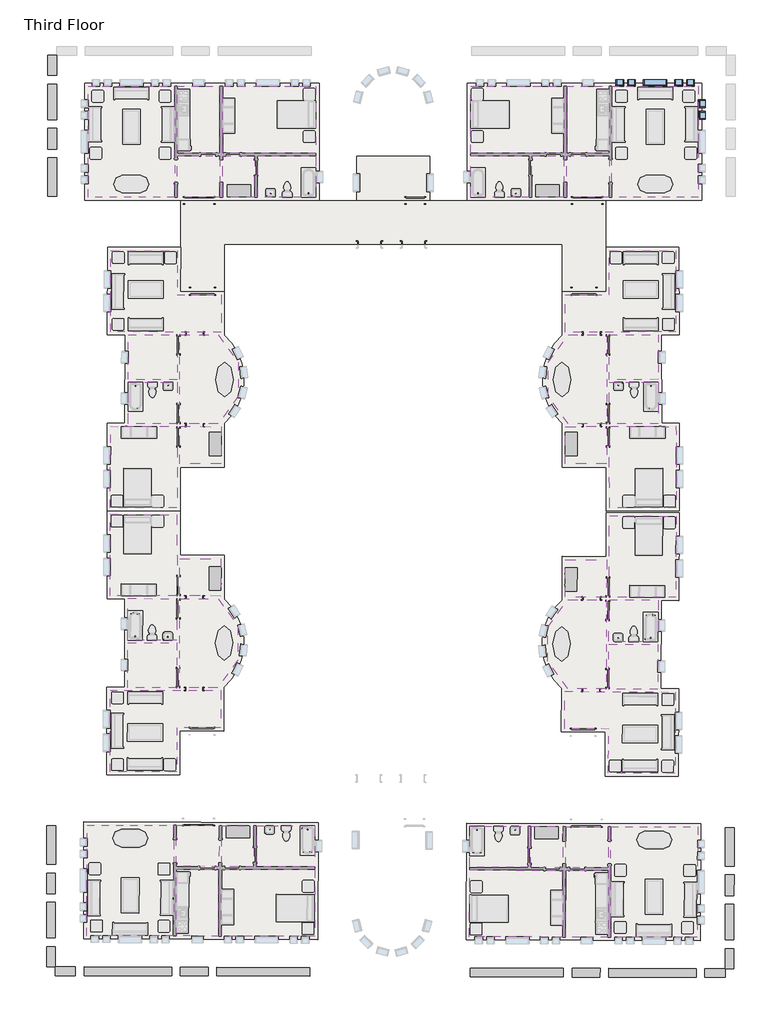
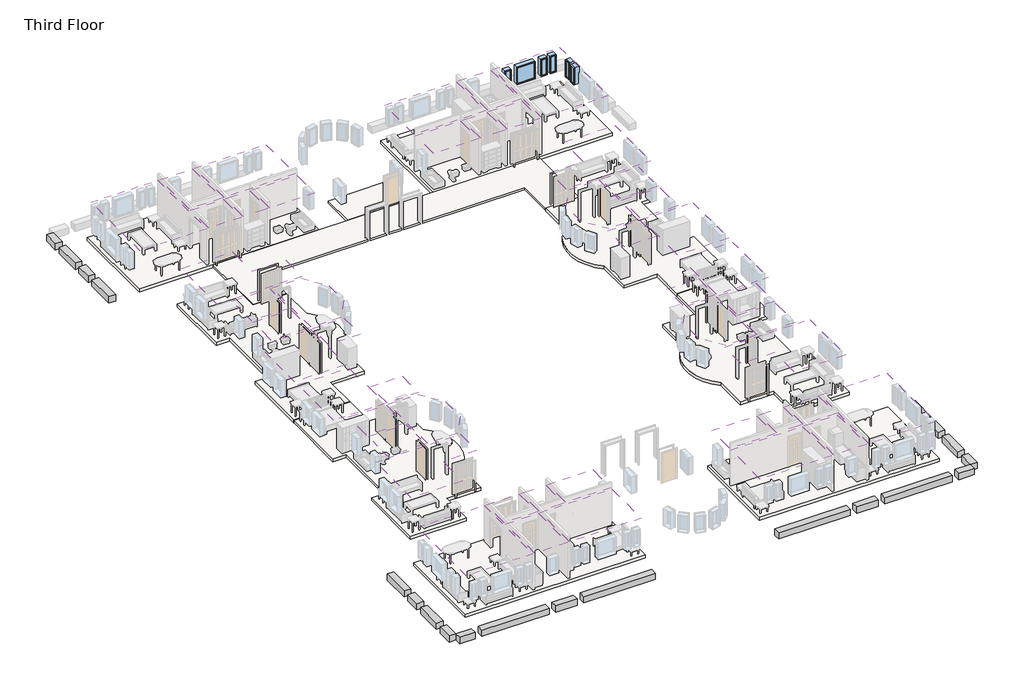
# One storey, part 3 of 5: 48 coverings, 10 slabs, 7 windows, 5 beams.
"""IFC4 building model written with IfcOpenShell, lengths in millimetres."""

import ifcopenshell
import ifcopenshell.guid

model = None  # the IFC model being written
_history = None  # IfcOwnerHistory: only IFC2X3 demands one
_inside = {}  # id of a spatial element -> (the spatial element, [elements in it])
_under = {}  # id of a project, library or spatial element -> (it, [spatial elements below it])
_declared = {}  # id of a project -> (the project, [libraries it declares])
_typed = {}  # id of a type object -> (the type object, [elements of that type])
_made_of = {}  # id of a material, layer set ... -> (it, [elements and type objects made of it])


def new_model(schema):
    """Start an empty IFC model of exactly this schema.

    Asked for "IFC4X3", IfcOpenShell would pick the latest addendum, in which some entities
    have other attributes; the version numbers below select the first issue.
    IFC2X3 requires an IfcOwnerHistory on every rooted entity: one is made here for all.
    """
    global model, _history
    if schema == "IFC4X3":
        model = ifcopenshell.file(schema_version=(4, 3, 0, 0))
    else:
        model = ifcopenshell.file(schema=schema)
    _inside.clear()
    _under.clear()
    _declared.clear()
    _typed.clear()
    _made_of.clear()
    _history = None
    if model.schema == "IFC2X3":
        org = make("IfcOrganization", Name="unknown")
        user = make(
            "IfcPersonAndOrganization",
            ThePerson=make("IfcPerson", FamilyName="unknown"),
            TheOrganization=org,
        )
        app = make(
            "IfcApplication",
            ApplicationDeveloper=org,
            Version="unknown",
            ApplicationFullName="unknown",
            ApplicationIdentifier="unknown",
        )
        _history = make(
            "IfcOwnerHistory",
            OwningUser=user,
            OwningApplication=app,
            ChangeAction="ADDED",
            CreationDate=0,
        )
    return model


def make(cls, **values):
    """One entity of the class cls with the attributes given. An attribute that is None is left unset."""
    return model.create_entity(
        cls, **{name: value for name, value in values.items() if value is not None}
    )


def rooted(cls, **values):
    """An entity with a GlobalId (a new one), such as an element, a storey or a relation."""
    return make(cls, GlobalId=ifcopenshell.guid.new(), OwnerHistory=_history, **values)


def si_unit(unit_type, name, prefix=None):
    """IfcSIUnit, for example si_unit("LENGTHUNIT", "METRE", prefix="MILLI")."""
    return make("IfcSIUnit", UnitType=unit_type, Prefix=prefix, Name=name)


def assignment(units):
    """IfcUnitAssignment: the units of a project."""
    return None if units is None else make("IfcUnitAssignment", Units=units)


def point(xyz):
    """IfcCartesianPoint."""
    return None if xyz is None else make("IfcCartesianPoint", Coordinates=xyz)


def direction(xyz):
    """IfcDirection."""
    return None if xyz is None else make("IfcDirection", DirectionRatios=xyz)


def frame(location, z_axis=None, x_axis=None):
    """IfcAxis2Placement3D, a coordinate frame: its origin and axes. An axis left out is left unset."""
    return make(
        "IfcAxis2Placement3D",
        Location=point(location),
        Axis=direction(z_axis),
        RefDirection=direction(x_axis),
    )


def frame_2d(location, x_axis=None):
    """IfcAxis2Placement2D, a coordinate frame in the plane: its origin and x axis."""
    return make(
        "IfcAxis2Placement2D", Location=point(location), RefDirection=direction(x_axis)
    )


def origin():
    """The frame at (0, 0, 0) with its axes left unset."""
    return frame((0.0, 0.0, 0.0))


def place(relative_to, where):
    """IfcLocalPlacement: puts the frame where relative to a parent placement (None: the world)."""
    return make(
        "IfcLocalPlacement", PlacementRelTo=relative_to, RelativePlacement=where
    )


def context(
    kind, dimensions, precision=None, world=None, true_north=None, identifier=None
):
    """IfcGeometricRepresentationContext, for example the 3D "Model" context."""
    return make(
        "IfcGeometricRepresentationContext",
        ContextIdentifier=identifier,
        ContextType=kind,
        CoordinateSpaceDimension=dimensions,
        Precision=precision,
        WorldCoordinateSystem=world,
        TrueNorth=true_north,
    )


def project(units=None, contexts=None):
    """IfcProject with its units and contexts."""
    return rooted(
        "IfcProject",
        Name="project",
        RepresentationContexts=contexts,
        UnitsInContext=assignment(units),
    )


def spatial(cls, under=None, at=None, **own):
    """A site, building, storey or space (cls), placed at a placement, below another one or the project."""
    s = rooted(cls, ObjectPlacement=at, **own)
    if under is not None:
        _under.setdefault(under.id(), (under, []))[1].append(s)
    return s


def polyline(points):
    """IfcPolyline through the points."""
    return make("IfcPolyline", Points=[point(p) for p in points])


def circle_curve(where, radius):
    """IfcCircle in the frame where."""
    return make("IfcCircle", Position=where, Radius=radius)


def trimmed(basis, trim1, trim2, sense, master):
    """IfcTrimmedCurve: the piece of a basis curve between two trims."""
    return make(
        "IfcTrimmedCurve",
        BasisCurve=basis,
        Trim1=trim1,
        Trim2=trim2,
        SenseAgreement=sense,
        MasterRepresentation=master,
    )


def segment(curve, same_sense, transition):
    """IfcCompositeCurveSegment."""
    return make(
        "IfcCompositeCurveSegment",
        Transition=transition,
        SameSense=same_sense,
        ParentCurve=curve,
    )


def composite_curve(segments, self_intersect=None):
    """IfcCompositeCurve: segments joined end to end."""
    return make("IfcCompositeCurve", Segments=segments, SelfIntersect=self_intersect)


def outline(outer, holes=None, kind="AREA"):
    """IfcArbitraryClosedProfileDef: a profile drawn as a closed curve; with holes, ...WithVoids."""
    if holes is None:
        return make("IfcArbitraryClosedProfileDef", ProfileType=kind, OuterCurve=outer)
    return make(
        "IfcArbitraryProfileDefWithVoids",
        ProfileType=kind,
        OuterCurve=outer,
        InnerCurves=holes,
    )


def extrude(swept, where, along, depth):
    """IfcExtrudedAreaSolid: the profile swept, set in the frame where, extruded along a direction by depth."""
    return make(
        "IfcExtrudedAreaSolid",
        SweptArea=swept,
        Position=where,
        ExtrudedDirection=direction(along),
        Depth=depth,
    )


def shape(context_of_items, identifier, shape_type, items):
    """IfcShapeRepresentation: the items that make up one representation, for example the "Body"."""
    return make(
        "IfcShapeRepresentation",
        ContextOfItems=context_of_items,
        RepresentationIdentifier=identifier,
        RepresentationType=shape_type,
        Items=items,
    )


def source(mapping_origin, context_of_items, identifier, shape_type, items):
    """IfcRepresentationMap: a shape defined once, which mapped items show again and again."""
    return make(
        "IfcRepresentationMap",
        MappingOrigin=mapping_origin,
        MappedRepresentation=shape(context_of_items, identifier, shape_type, items),
    )


def transform(
    local_origin,
    x_axis=None,
    y_axis=None,
    z_axis=None,
    scale=None,
    scale2=None,
    scale3=None,
    uniform=True,
):
    """IfcCartesianTransformationOperator3D, or its non-uniform kind. x_axis, y_axis, z_axis: its Axis1, 2, 3."""
    if uniform:
        return make(
            "IfcCartesianTransformationOperator3D",
            Axis1=direction(x_axis),
            Axis2=direction(y_axis),
            LocalOrigin=point(local_origin),
            Scale=scale,
            Axis3=direction(z_axis),
        )
    return make(
        "IfcCartesianTransformationOperator3DnonUniform",
        Axis1=direction(x_axis),
        Axis2=direction(y_axis),
        LocalOrigin=point(local_origin),
        Scale=scale,
        Axis3=direction(z_axis),
        Scale2=scale2,
        Scale3=scale3,
    )


def mapped(mapping_source, mapping_target):
    """IfcMappedItem: shows the shape of a source again, moved by a transform."""
    return make(
        "IfcMappedItem", MappingSource=mapping_source, MappingTarget=mapping_target
    )


def made_of(thing, what):
    """Note that an element or type object is made of a material, layer set ...; save() writes the relation."""
    if what is not None:
        _made_of.setdefault(what.id(), (what, []))[1].append(thing)
    return thing


def element(
    cls,
    number,
    at=None,
    inside=None,
    cuts=None,
    type_object=None,
    material=None,
    context=None,
    identifier="Body",
    shape_type=None,
    held_by="IfcProductDefinitionShape",
    body=None,
    shapes=None,
    **own,
):
    """One element of the class cls, such as IfcWall. Its Tag is "e" and its number.

    at: its placement. inside: the storey or other place that contains it. cuts: it is an
    opening in that element (IfcRelVoidsElement). A single representation is given by context,
    identifier, shape_type and body (its items); several are given by shapes. held_by: the class
    of the entity that holds the representations. save() writes the other relations.
    """
    e = rooted(cls, Tag="e%d" % number, ObjectPlacement=at, **own)
    if body is not None:
        shapes = [shape(context, identifier, shape_type, body)]
    if shapes is not None:
        e.Representation = make(held_by, Representations=shapes)
    if inside is not None:
        _inside.setdefault(inside.id(), (inside, []))[1].append(e)
    if cuts is not None:
        rooted(
            "IfcRelVoidsElement", RelatingBuildingElement=cuts, RelatedOpeningElement=e
        )
    if type_object is not None:
        _typed.setdefault(type_object.id(), (type_object, []))[1].append(e)
    return made_of(e, material)


def aggregate(whole, parts):
    """IfcRelAggregates: a whole, such as a stair, and the parts it consists of."""
    return rooted("IfcRelAggregates", RelatingObject=whole, RelatedObjects=parts)


def save(model, path):
    """Write the relations noted so far, then the file.

    IfcRelAggregates (storeys below a building ...), IfcRelContainedInSpatialStructure (elements
    in a storey), IfcRelDefinesByType, IfcRelAssociatesMaterial and IfcRelDeclares: one each for
    every whole, place, type object, material and project.
    """
    for whole, parts in _under.values():
        aggregate(whole, parts)
    for where, things in _inside.values():
        rooted(
            "IfcRelContainedInSpatialStructure",
            RelatedElements=things,
            RelatingStructure=where,
        )
    for kind, things in _typed.values():
        rooted("IfcRelDefinesByType", RelatedObjects=things, RelatingType=kind)
    for what, things in _made_of.values():
        rooted("IfcRelAssociatesMaterial", RelatedObjects=things, RelatingMaterial=what)
    for by, libraries in _declared.values():
        rooted("IfcRelDeclares", RelatingContext=by, RelatedDefinitions=libraries)
    model.write(path)


def m_fixed_0406_x_1220mm_57fee329(model_context):
    return source(origin(), model_context, "Body", "SweptSolid", [
        extrude(outline(polyline([(-140.0, 153.0), (140.0, 153.0), (140.0, 141.0), (-140.0, 141.0), (-140.0, 153.0)])), frame((0.0, 0.0, 978.0), z_axis=(0.0, 0.0, 1.0), x_axis=(1.0, 0.0, 0.0)), (0.0, 0.0, 1.0), 1094.0),
        extrude(outline(polyline([(2116.0, -184.0), (934.0, -184.0), (934.0, 184.0), (2116.0, 184.0), (2116.0, -184.0)]), holes=[polyline([(2072.0, -140.0), (2072.0, 140.0), (978.0, 140.0), (978.0, -140.0), (2072.0, -140.0)])]), frame((0.0, 125.0, 0.0), z_axis=(0.0, 1.0, 0.0), x_axis=(0.0, 0.0, 1.0)), (0.0, 0.0, 1.0), 44.0),
        extrude(outline(polyline([(2135.0, -203.0), (915.0, -203.0), (915.0, 203.0), (2135.0, 203.0), (2135.0, -203.0)]), holes=[polyline([(2116.0, -184.0), (2116.0, 184.0), (934.0, 184.0), (934.0, -184.0), (2116.0, -184.0)])]), frame((0.0, 125.0, 0.0), z_axis=(0.0, 1.0, 0.0), x_axis=(0.0, 0.0, 1.0)), (0.0, 0.0, 1.0), 63.0),
        extrude(outline(polyline([(2135.0, -203.0), (915.0, -203.0), (915.0, 203.0), (2135.0, 203.0), (2135.0, -203.0)]), holes=[polyline([(2103.0, -171.0), (2103.0, 171.0), (947.0, 171.0), (947.0, -171.0), (2103.0, -171.0)])]), frame((0.0, -162.0, 0.0), z_axis=(0.0, 1.0, 0.0), x_axis=(0.0, 0.0, 1.0)), (0.0, 0.0, 1.0), 287.0),
    ])


def m_fixed_0406_x_1220mm_85c28f40(model_context):
    return source(origin(), model_context, "Body", "SweptSolid", [
        extrude(outline(polyline([(-140.0, -153.0), (-140.0, -141.0), (140.0, -141.0), (140.0, -153.0), (-140.0, -153.0)])), frame((0.0, 0.0, 978.0), z_axis=(0.0, 0.0, 1.0), x_axis=(1.0, 0.0, 0.0)), (0.0, 0.0, 1.0), 1094.0),
        extrude(outline(polyline([(2116.0, -184.0), (934.0, -184.0), (934.0, 184.0), (2116.0, 184.0), (2116.0, -184.0)]), holes=[polyline([(2072.0, -140.0), (2072.0, 140.0), (978.0, 140.0), (978.0, -140.0), (2072.0, -140.0)])]), frame((0.0, -169.0, 0.0), z_axis=(0.0, 1.0, 0.0), x_axis=(0.0, 0.0, 1.0)), (0.0, 0.0, 1.0), 44.0),
        extrude(outline(polyline([(2135.0, -203.0), (915.0, -203.0), (915.0, 203.0), (2135.0, 203.0), (2135.0, -203.0)]), holes=[polyline([(2116.0, -184.0), (2116.0, 184.0), (934.0, 184.0), (934.0, -184.0), (2116.0, -184.0)])]), frame((0.0, -188.0, 0.0), z_axis=(0.0, 1.0, 0.0), x_axis=(0.0, 0.0, 1.0)), (0.0, 0.0, 1.0), 63.0),
        extrude(outline(polyline([(2135.0, -203.0), (915.0, -203.0), (915.0, 203.0), (2135.0, 203.0), (2135.0, -203.0)]), holes=[polyline([(2103.0, -171.0), (2103.0, 171.0), (947.0, 171.0), (947.0, -171.0), (2103.0, -171.0)])]), frame((0.0, -125.0, 0.0), z_axis=(0.0, 1.0, 0.0), x_axis=(0.0, 0.0, 1.0)), (0.0, 0.0, 1.0), 287.0),
    ])


def m_fixed_1220_x_1220mm_e08ff7af(model_context):
    return source(origin(), model_context, "Body", "SweptSolid", [
        extrude(outline(polyline([(-547.0, 153.0), (547.0, 153.0), (547.0, 141.0), (-547.0, 141.0), (-547.0, 153.0)])), frame((0.0, 0.0, 978.0), z_axis=(0.0, 0.0, 1.0), x_axis=(1.0, 0.0, 0.0)), (0.0, 0.0, 1.0), 1094.0),
        extrude(outline(polyline([(2116.0, -591.0), (934.0, -591.0), (934.0, 591.0), (2116.0, 591.0), (2116.0, -591.0)]), holes=[polyline([(2072.0, -547.0), (2072.0, 547.0), (978.0, 547.0), (978.0, -547.0), (2072.0, -547.0)])]), frame((0.0, 125.0, 0.0), z_axis=(0.0, 1.0, 0.0), x_axis=(0.0, 0.0, 1.0)), (0.0, 0.0, 1.0), 44.0),
        extrude(outline(polyline([(2135.0, -610.0), (915.0, -610.0), (915.0, 610.0), (2135.0, 610.0), (2135.0, -610.0)]), holes=[polyline([(2116.0, -591.0), (2116.0, 591.0), (934.0, 591.0), (934.0, -591.0), (2116.0, -591.0)])]), frame((0.0, 125.0, 0.0), z_axis=(0.0, 1.0, 0.0), x_axis=(0.0, 0.0, 1.0)), (0.0, 0.0, 1.0), 63.0),
        extrude(outline(polyline([(2135.0, -610.0), (915.0, -610.0), (915.0, 610.0), (2135.0, 610.0), (2135.0, -610.0)]), holes=[polyline([(2103.0, -578.0), (2103.0, 578.0), (947.0, 578.0), (947.0, -578.0), (2103.0, -578.0)])]), frame((0.0, -162.0, 0.0), z_axis=(0.0, 1.0, 0.0), x_axis=(0.0, 0.0, 1.0)), (0.0, 0.0, 1.0), 287.0),
    ])


model = new_model("IFC4")

# Units and contexts
model_context = context("Model", 3, world=origin())
ifc_project = project(units=[si_unit("LENGTHUNIT", "METRE", prefix="MILLI")], contexts=[model_context])

# Site, building, storey
site = spatial("IfcSite", under=ifc_project)
building = spatial("IfcBuilding", under=site)
storey = spatial("IfcBuildingStorey", under=building, Name="Third Floor", Elevation=6096.0)

# Beams
placement = place(None, origin())
element("IfcBeam", 1, ObjectType="M_Concrete-Rectangular Beam : 450 x 450", at=placement, inside=storey, context=model_context, shape_type="SweptSolid", body=[
    extrude(outline(polyline([(-36458.8416203, -3289.8811614), (-36908.8416203, -3289.8811614), (-36908.8416203, -1295.3811614), (-36458.8416203, -1295.3811614), (-36458.8416203, -3289.8811614)])), frame((0.0, 0.0, 5646.0), z_axis=(0.0, 0.0, 1.0), x_axis=(1.0, 0.0, 0.0)), (0.0, 0.0, 1.0), 450.0),
    extrude(outline(polyline([(-36458.8416203, 2981.1188386), (-36908.8416203, 2981.1188386), (-36908.8416203, 4031.1188386), (-36458.8416203, 4031.1188386), (-36458.8416203, 2981.1188386)])), frame((0.0, 0.0, 5646.0), z_axis=(0.0, 0.0, 1.0), x_axis=(1.0, 0.0, 0.0)), (0.0, 0.0, 1.0), 450.0),
    extrude(outline(polyline([(-36908.8416203, 2531.1188386), (-36458.8416203, 2531.1188386), (-36458.8416203, 681.1188386), (-36908.8416203, 681.1188386), (-36908.8416203, 2531.1188386)])), frame((0.0, 0.0, 5646.0), z_axis=(0.0, 0.0, 1.0), x_axis=(1.0, 0.0, 0.0)), (0.0, 0.0, 1.0), 450.0),
    extrude(outline(polyline([(-36908.8416203, 231.1188386), (-36458.8416203, 231.1188386), (-36458.8416203, -845.3811614), (-36908.8416203, -845.3811614), (-36908.8416203, 231.1188386)])), frame((0.0, 0.0, 5646.0), z_axis=(0.0, 0.0, 1.0), x_axis=(1.0, 0.0, 0.0)), (0.0, 0.0, 1.0), 450.0),
])
element("IfcBeam", 2, ObjectType="M_Concrete-Rectangular Beam : 450 x 450", at=placement, inside=storey, context=model_context, shape_type="SweptSolid", body=[
    extrude(outline(polyline([(-1712.0689607, -43451.2055858), (-1713.3716449, -43901.2037003), (-2763.3672453, -43898.1641037), (-2762.0645611, -43448.1659892), (-1712.0689607, -43451.2055858)])), frame((0.0, 0.0, 5646.0), z_axis=(0.0, 0.0, 1.0), x_axis=(1.0, 0.0, 0.0)), (0.0, 0.0, 1.0), 450.0),
    extrude(outline(polyline([(-14955.3161596, -43862.8700448), (-14954.0134754, -43412.8719303), (-10112.0337638, -43426.888813), (-10113.3364481, -43876.8869274), (-14955.3161596, -43862.8700448)])), frame((0.0, 0.0, 5646.0), z_axis=(0.0, 0.0, 1.0), x_axis=(1.0, 0.0, 0.0)), (0.0, 0.0, 1.0), 450.0),
    extrude(outline(polyline([(-3212.0626755, -43446.863305), (-3213.3653598, -43896.8614194), (-7763.3462948, -43883.6898341), (-7762.0436106, -43433.6917196), (-3212.0626755, -43446.863305)])), frame((0.0, 0.0, 5646.0), z_axis=(0.0, 0.0, 1.0), x_axis=(1.0, 0.0, 0.0)), (0.0, 0.0, 1.0), 450.0),
    extrude(outline(polyline([(-8212.041725, -43432.3890354), (-8213.3444093, -43882.3871498), (-9663.3383336, -43878.1896117), (-9662.0356494, -43428.1914972), (-8212.041725, -43432.3890354)])), frame((0.0, 0.0, 5646.0), z_axis=(0.0, 0.0, 1.0), x_axis=(1.0, 0.0, 0.0)), (0.0, 0.0, 1.0), 450.0),
])
element("IfcBeam", 3, ObjectType="M_Concrete-Rectangular Beam : 450 x 450", at=placement, inside=storey, context=model_context, shape_type="SweptSolid", body=[
    extrude(outline(polyline([(-1690.8757352, -36130.2362615), (-1240.8776207, -36131.5389458), (-1246.6514068, -38126.0305886), (-1696.6495213, -38124.7279044), (-1690.8757352, -36130.2362615)])), frame((0.0, 0.0, 5646.0), z_axis=(0.0, 0.0, 1.0), x_axis=(1.0, 0.0, 0.0)), (0.0, 0.0, 1.0), 450.0),
    extrude(outline(polyline([(-1709.0293641, -42401.2099854), (-1259.0312496, -42402.5126697), (-1262.0708462, -43452.5082701), (-1712.0689607, -43451.2055858), (-1709.0293641, -42401.2099854)])), frame((0.0, 0.0, 5646.0), z_axis=(0.0, 0.0, 1.0), x_axis=(1.0, 0.0, 0.0)), (0.0, 0.0, 1.0), 450.0),
    extrude(outline(polyline([(-1257.7285653, -41952.5145552), (-1707.7266798, -41951.211871), (-1702.3712001, -40101.2196227), (-1252.3730856, -40102.5223069), (-1257.7285653, -41952.5145552)])), frame((0.0, 0.0, 5646.0), z_axis=(0.0, 0.0, 1.0), x_axis=(1.0, 0.0, 0.0)), (0.0, 0.0, 1.0), 450.0),
    extrude(outline(polyline([(-1251.0704013, -39652.5241925), (-1701.0685158, -39651.2215082), (-1697.9522056, -38574.7260188), (-1247.9540911, -38576.0287031), (-1251.0704013, -39652.5241925)])), frame((0.0, 0.0, 5646.0), z_axis=(0.0, 0.0, 1.0), x_axis=(1.0, 0.0, 0.0)), (0.0, 0.0, 1.0), 450.0),
])
element("IfcBeam", 4, ObjectType="M_Concrete-Rectangular Beam : 450 x 450", at=placement, inside=storey, context=model_context, shape_type="SweptSolid", body=[
    extrude(outline(polyline([(-36528.7257646, -43800.4179138), (-36527.4230803, -43350.4197994), (-35477.4274799, -43353.459396), (-35478.7301642, -43803.4575104), (-36528.7257646, -43800.4179138)])), frame((0.0, 0.0, 5646.0), z_axis=(0.0, 0.0, 1.0), x_axis=(1.0, 0.0, 0.0)), (0.0, 0.0, 1.0), 450.0),
    extrude(outline(polyline([(-23285.4785656, -43388.7534549), (-23286.7812498, -43838.7515694), (-28128.7609614, -43824.7346867), (-28127.4582771, -43374.7365723), (-23285.4785656, -43388.7534549)])), frame((0.0, 0.0, 5646.0), z_axis=(0.0, 0.0, 1.0), x_axis=(1.0, 0.0, 0.0)), (0.0, 0.0, 1.0), 450.0),
    extrude(outline(polyline([(-35028.7320497, -43804.7601947), (-35027.4293654, -43354.7620803), (-30477.4484304, -43367.9336656), (-30478.7511147, -43817.93178), (-35028.7320497, -43804.7601947)])), frame((0.0, 0.0, 5646.0), z_axis=(0.0, 0.0, 1.0), x_axis=(1.0, 0.0, 0.0)), (0.0, 0.0, 1.0), 450.0),
    extrude(outline(polyline([(-30028.7530002, -43819.2344643), (-30027.4503159, -43369.2363498), (-28577.4563916, -43373.433888), (-28578.7590758, -43823.4320025), (-30028.7530002, -43819.2344643)])), frame((0.0, 0.0, 5646.0), z_axis=(0.0, 0.0, 1.0), x_axis=(1.0, 0.0, 0.0)), (0.0, 0.0, 1.0), 450.0),
])
element("IfcBeam", 5, ObjectType="M_Concrete-Rectangular Beam : 450 x 450", at=placement, inside=storey, context=model_context, shape_type="SweptSolid", body=[
    extrude(outline(polyline([(-36974.3815981, -42299.1215147), (-36524.3834837, -42300.424199), (-36527.4230803, -43350.4197994), (-36977.4211948, -43349.1171151), (-36974.3815981, -42299.1215147)])), frame((0.0, 0.0, 5646.0), z_axis=(0.0, 0.0, 1.0), x_axis=(1.0, 0.0, 0.0)), (0.0, 0.0, 1.0), 450.0),
    extrude(outline(polyline([(-36956.2279692, -36028.1477908), (-36506.2298548, -36029.4504751), (-36512.0036409, -38023.9421179), (-36962.0017554, -38022.6394337), (-36956.2279692, -36028.1477908)])), frame((0.0, 0.0, 5646.0), z_axis=(0.0, 0.0, 1.0), x_axis=(1.0, 0.0, 0.0)), (0.0, 0.0, 1.0), 450.0),
    extrude(outline(polyline([(-36523.0807994, -41850.4260845), (-36973.0789139, -41849.1234003), (-36967.7234341, -39999.1311519), (-36517.7253197, -40000.4338362), (-36523.0807994, -41850.4260845)])), frame((0.0, 0.0, 5646.0), z_axis=(0.0, 0.0, 1.0), x_axis=(1.0, 0.0, 0.0)), (0.0, 0.0, 1.0), 450.0),
    extrude(outline(polyline([(-36516.4226354, -39550.4357218), (-36966.4207499, -39549.1330375), (-36963.3044396, -38472.6375481), (-36513.3063252, -38473.9402324), (-36516.4226354, -39550.4357218)])), frame((0.0, 0.0, 5646.0), z_axis=(0.0, 0.0, 1.0), x_axis=(1.0, 0.0, 0.0)), (0.0, 0.0, 1.0), 450.0),
])

# Coverings
element("IfcCovering", 6, ObjectType="Plain", at=placement, inside=storey, context=model_context, shape_type="SweptSolid", body=[
    extrude(outline(polyline([(-14935.3416203, 2406.1188386), (-10086.8416203, 2406.1188386), (-10086.8416203, -1070.3811614), (-14935.3416203, -1070.3811614), (-14935.3416203, 2406.1188386)])), frame((0.0, 0.0, 8686.0), z_axis=(0.0, 0.0, 1.0), x_axis=(1.0, 0.0, 0.0)), (0.0, 0.0, 1.0), 57.0),
])
element("IfcCovering", 7, ObjectType="Plain", at=placement, inside=storey, context=model_context, shape_type="SweptSolid", body=[
    extrude(outline(polyline([(-9951.3416203, -1070.3811614), (-9951.3416203, 2406.1188386), (-7733.0916203, 2406.1188386), (-7733.0916203, -1070.3811614), (-9951.3416203, -1070.3811614)])), frame((0.0, 0.0, 8686.0), z_axis=(0.0, 0.0, 1.0), x_axis=(1.0, 0.0, 0.0)), (0.0, 0.0, 1.0), 57.0),
])
element("IfcCovering", 8, ObjectType="Plain", at=placement, inside=storey, context=model_context, shape_type="SweptSolid", body=[
    extrude(outline(polyline([(-7597.5916203, -3339.8811614), (-7597.5916203, 2406.1188386), (-3093.3416203, 2406.1188386), (-3093.3416203, -3339.8811614), (-7597.5916203, -3339.8811614)])), frame((0.0, 0.0, 8686.0), z_axis=(0.0, 0.0, 1.0), x_axis=(1.0, 0.0, 0.0)), (0.0, 0.0, 1.0), 57.0),
])
element("IfcCovering", 9, ObjectType="Plain", at=placement, inside=storey, context=model_context, shape_type="SweptSolid", body=[
    extrude(outline(polyline([(-7733.0916203, -3339.8811614), (-9951.3416203, -3339.8811614), (-9951.3416203, -1205.8811614), (-7733.0916203, -1205.8811614), (-7733.0916203, -3339.8811614)])), frame((0.0, 0.0, 8686.0), z_axis=(0.0, 0.0, 1.0), x_axis=(1.0, 0.0, 0.0)), (0.0, 0.0, 1.0), 57.0),
])
element("IfcCovering", 10, ObjectType="Plain", at=placement, inside=storey, context=model_context, shape_type="SweptSolid", body=[
    extrude(outline(polyline([(-11887.3416203, -1205.8811614), (-11887.3416203, -3339.8811614), (-14935.3416203, -3339.8811614), (-14935.3416203, -1205.8811614), (-11887.3416203, -1205.8811614)])), frame((0.0, 0.0, 8686.0), z_axis=(0.0, 0.0, 1.0), x_axis=(1.0, 0.0, 0.0)), (0.0, 0.0, 1.0), 57.0),
])
element("IfcCovering", 11, ObjectType="Plain", at=placement, inside=storey, context=model_context, shape_type="SweptSolid", body=[
    extrude(outline(polyline([(-10086.8416203, -3339.8811614), (-11751.8416203, -3339.8811614), (-11751.8416203, -1205.8811614), (-10086.8416203, -1205.8811614), (-10086.8416203, -3339.8811614)])), frame((0.0, 0.0, 8686.0), z_axis=(0.0, 0.0, 1.0), x_axis=(1.0, 0.0, 0.0)), (0.0, 0.0, 1.0), 57.0),
])
element("IfcCovering", 12, ObjectType="Plain", at=placement, inside=storey, context=model_context, shape_type="SweptSolid", body=[
    extrude(outline(polyline([(-7719.603401, -17382.7647995), (-7726.8533934, -17382.7752934), (-7729.9194088, -15264.5275123), (-5002.0722663, -15260.5791445), (-5002.0617724, -15267.829137), (-4262.662547, -15266.7589083), (-4256.5515039, -19488.7544857), (-7716.5478795, -19493.7625882), (-7719.603401, -17382.7647995)])), frame((0.0, 0.0, 8687.0), z_axis=(0.0, 0.0, 1.0), x_axis=(1.0, 0.0, 0.0)), (0.0, 0.0, 1.0), 57.0),
])
element("IfcCovering", 13, ObjectType="Plain", at=placement, inside=storey, context=model_context, shape_type="SweptSolid", body=[
    extrude(outline(polyline([(-7730.1155353, -15129.0276542), (-7733.2504483, -12963.179923), (-5180.4031225, -12959.4848553), (-5177.2682095, -15125.3325865), (-7730.1155353, -15129.0276542)])), frame((0.0, 0.0, 8687.0), z_axis=(0.0, 0.0, 1.0), x_axis=(1.0, 0.0, 0.0)), (0.0, 0.0, 1.0), 57.0),
])
element("IfcCovering", 14, ObjectType="Plain", at=placement, inside=storey, context=model_context, shape_type="SweptSolid", body=[
    extrude(outline(polyline([(-7733.4465749, -12827.680065), (-7736.8265375, -10492.5325111), (-5183.9792116, -10488.8374433), (-5180.599249, -12823.9849972), (-7733.4465749, -12827.680065)])), frame((0.0, 0.0, 8687.0), z_axis=(0.0, 0.0, 1.0), x_axis=(1.0, 0.0, 0.0)), (0.0, 0.0, 1.0), 57.0),
])
element("IfcCovering", 15, ObjectType="Plain", at=placement, inside=storey, context=model_context, shape_type="SweptSolid", body=[
    extrude(outline(polyline([(-10015.770277, -10360.3309807), (-10018.5829924, -8417.0830163), (-7732.585387, -8413.7741948), (-7735.8942085, -6127.7765894), (-4275.8978329, -6122.7684869), (-4269.7867899, -10344.7640643), (-5009.1860154, -10345.8342929), (-5009.1755215, -10353.0842853), (-10015.770277, -10360.3309807)])), frame((0.0, 0.0, 8687.0), z_axis=(0.0, 0.0, 1.0), x_axis=(1.0, 0.0, 0.0)), (0.0, 0.0, 1.0), 57.0),
])
element("IfcCovering", 16, ObjectType="Plain", at=placement, inside=storey, context=model_context, shape_type="SweptSolid", body=[
    extrude(outline(composite_curve([segment(polyline([(-9871.5226854, -10495.6223343), (-7872.3263955, -10492.7286377), (-7865.6153934, -15129.2237808), (-9864.8116833, -15132.1174775)]), True, "CONTINUOUS"), segment(trimmed(circle_curve(frame_2d((-8171.1580789, -12811.413604)), 2873.0), [point((-9864.8116833, -15132.1174775))], [point((-9871.5226854, -10495.6223343))], False, "CARTESIAN"), True, "CONTINUOUS")], self_intersect=False)), frame((0.0, 0.0, 8687.0), z_axis=(0.0, 0.0, 1.0), x_axis=(1.0, 0.0, 0.0)), (0.0, 0.0, 1.0), 57.0),
])
element("IfcCovering", 17, ObjectType="Plain", at=placement, inside=storey, context=model_context, shape_type="SweptSolid", body=[
    extrude(outline(polyline([(-10008.6670217, -15267.8258399), (-7865.4192668, -15264.7236389), (-7862.6065515, -17207.9716033), (-10005.8543064, -17211.0738043), (-10008.6670217, -15267.8258399)])), frame((0.0, 0.0, 8687.0), z_axis=(0.0, 0.0, 1.0), x_axis=(1.0, 0.0, 0.0)), (0.0, 0.0, 1.0), 57.0),
])
element("IfcCovering", 18, ObjectType="Plain", at=placement, inside=storey, context=model_context, shape_type="SweptSolid", body=[
    extrude(outline(polyline([(-22978.8416203, 2406.1188386), (-22978.8416203, -1070.3811614), (-27827.3416203, -1070.3811614), (-27827.3416203, 2406.1188386), (-22978.8416203, 2406.1188386)])), frame((0.0, 0.0, 8686.0), z_axis=(0.0, 0.0, 1.0), x_axis=(1.0, 0.0, 0.0)), (0.0, 0.0, 1.0), 57.0),
])
element("IfcCovering", 19, ObjectType="Plain", at=placement, inside=storey, context=model_context, shape_type="SweptSolid", body=[
    extrude(outline(polyline([(-27962.8416203, -1070.3811614), (-30181.0916203, -1070.3811614), (-30181.0916203, 2406.1188386), (-27962.8416203, 2406.1188386), (-27962.8416203, -1070.3811614)])), frame((0.0, 0.0, 8686.0), z_axis=(0.0, 0.0, 1.0), x_axis=(1.0, 0.0, 0.0)), (0.0, 0.0, 1.0), 57.0),
])
element("IfcCovering", 20, ObjectType="Plain", at=placement, inside=storey, context=model_context, shape_type="SweptSolid", body=[
    extrude(outline(polyline([(-30316.5916203, -3339.8811614), (-34820.8416203, -3339.8811614), (-34820.8416203, 2406.1188386), (-30316.5916203, 2406.1188386), (-30316.5916203, -3339.8811614)])), frame((0.0, 0.0, 8686.0), z_axis=(0.0, 0.0, 1.0), x_axis=(1.0, 0.0, 0.0)), (0.0, 0.0, 1.0), 57.0),
])
element("IfcCovering", 21, ObjectType="Plain", at=placement, inside=storey, context=model_context, shape_type="SweptSolid", body=[
    extrude(outline(polyline([(-30181.0916203, -3339.8811614), (-30181.0916203, -1205.8811614), (-27962.8416203, -1205.8811614), (-27962.8416203, -3339.8811614), (-30181.0916203, -3339.8811614)])), frame((0.0, 0.0, 8686.0), z_axis=(0.0, 0.0, 1.0), x_axis=(1.0, 0.0, 0.0)), (0.0, 0.0, 1.0), 57.0),
])
element("IfcCovering", 22, ObjectType="Plain", at=placement, inside=storey, context=model_context, shape_type="SweptSolid", body=[
    extrude(outline(polyline([(-26026.8416203, -1205.8811614), (-22978.8416203, -1205.8811614), (-22978.8416203, -3339.8811614), (-26026.8416203, -3339.8811614), (-26026.8416203, -1205.8811614)])), frame((0.0, 0.0, 8686.0), z_axis=(0.0, 0.0, 1.0), x_axis=(1.0, 0.0, 0.0)), (0.0, 0.0, 1.0), 57.0),
])
element("IfcCovering", 23, ObjectType="Plain", at=placement, inside=storey, context=model_context, shape_type="SweptSolid", body=[
    extrude(outline(polyline([(-27827.3416203, -3339.8811614), (-27827.3416203, -1205.8811614), (-26162.3416203, -1205.8811614), (-26162.3416203, -3339.8811614), (-27827.3416203, -3339.8811614)])), frame((0.0, 0.0, 8686.0), z_axis=(0.0, 0.0, 1.0), x_axis=(1.0, 0.0, 0.0)), (0.0, 0.0, 1.0), 57.0),
])
element("IfcCovering", 24, ObjectType="Plain", at=placement, inside=storey, context=model_context, shape_type="SweptSolid", body=[
    extrude(outline(polyline([(-30194.5798396, -17382.7647995), (-30197.6353611, -19493.7625882), (-33657.6317367, -19488.7544857), (-33651.5206937, -15266.7589083), (-32912.1214682, -15267.829137), (-32912.1109744, -15260.5791445), (-30184.2638319, -15264.5275123), (-30187.3298472, -17382.7752934), (-30194.5798396, -17382.7647995)])), frame((0.0, 0.0, 8687.0), z_axis=(0.0, 0.0, 1.0), x_axis=(1.0, 0.0, 0.0)), (0.0, 0.0, 1.0), 57.0),
])
element("IfcCovering", 25, ObjectType="Plain", at=placement, inside=storey, context=model_context, shape_type="SweptSolid", body=[
    extrude(outline(polyline([(-30184.0677053, -15129.0276542), (-32736.9150311, -15125.3325865), (-32733.7801182, -12959.4848553), (-30180.9327923, -12963.179923), (-30184.0677053, -15129.0276542)])), frame((0.0, 0.0, 8687.0), z_axis=(0.0, 0.0, 1.0), x_axis=(1.0, 0.0, 0.0)), (0.0, 0.0, 1.0), 57.0),
])
element("IfcCovering", 26, ObjectType="Plain", at=placement, inside=storey, context=model_context, shape_type="SweptSolid", body=[
    extrude(outline(polyline([(-30180.7366658, -12827.680065), (-32733.5839916, -12823.9849972), (-32730.204029, -10488.8374433), (-30177.3567032, -10492.5325111), (-30180.7366658, -12827.680065)])), frame((0.0, 0.0, 8687.0), z_axis=(0.0, 0.0, 1.0), x_axis=(1.0, 0.0, 0.0)), (0.0, 0.0, 1.0), 57.0),
])
element("IfcCovering", 27, ObjectType="Plain", at=placement, inside=storey, context=model_context, shape_type="SweptSolid", body=[
    extrude(outline(polyline([(-27898.4129637, -10360.3309807), (-32905.0077191, -10353.0842853), (-32904.9972253, -10345.8342929), (-33644.3964507, -10344.7640643), (-33638.2854077, -6122.7684869), (-30178.2890322, -6127.7765894), (-30181.5978537, -8413.7741948), (-27895.6002483, -8417.0830163), (-27898.4129637, -10360.3309807)])), frame((0.0, 0.0, 8687.0), z_axis=(0.0, 0.0, 1.0), x_axis=(1.0, 0.0, 0.0)), (0.0, 0.0, 1.0), 57.0),
])
element("IfcCovering", 28, ObjectType="Plain", at=placement, inside=storey, context=model_context, shape_type="SweptSolid", body=[
    extrude(outline(composite_curve([segment(trimmed(circle_curve(frame_2d((-29743.0251618, -12811.413604)), 2873.0), [point((-28042.6605552, -10495.6223343))], [point((-28049.3715573, -15132.1174775))], False, "CARTESIAN"), True, "CONTINUOUS"), segment(polyline([(-28049.3715573, -15132.1174775), (-30048.5678472, -15129.2237808), (-30041.8568451, -10492.7286377), (-28042.6605552, -10495.6223343)]), True, "CONTINUOUS")], self_intersect=False)), frame((0.0, 0.0, 8687.0), z_axis=(0.0, 0.0, 1.0), x_axis=(1.0, 0.0, 0.0)), (0.0, 0.0, 1.0), 57.0),
])
element("IfcCovering", 29, ObjectType="Plain", at=placement, inside=storey, context=model_context, shape_type="SweptSolid", body=[
    extrude(outline(polyline([(-27905.5162189, -15267.8258399), (-27908.3289343, -17211.0738043), (-30051.5766892, -17207.9716033), (-30048.7639738, -15264.7236389), (-27905.5162189, -15267.8258399)])), frame((0.0, 0.0, 8687.0), z_axis=(0.0, 0.0, 1.0), x_axis=(1.0, 0.0, 0.0)), (0.0, 0.0, 1.0), 57.0),
])
element("IfcCovering", 30, ObjectType="Plain", at=placement, inside=storey, context=model_context, shape_type="SweptSolid", body=[
    extrude(outline(polyline([(-14999.3091283, -41787.7339965), (-14989.2451686, -38311.2485634), (-10140.7654843, -38325.2842626), (-10150.829444, -41801.7696957), (-14999.3091283, -41787.7339965)])), frame((0.0, 0.0, 8686.0), z_axis=(0.0, 0.0, 1.0), x_axis=(1.0, 0.0, 0.0)), (0.0, 0.0, 1.0), 57.0),
])
element("IfcCovering", 31, ObjectType="Plain", at=placement, inside=storey, context=model_context, shape_type="SweptSolid", body=[
    extrude(outline(polyline([(-10005.2660521, -38325.6765153), (-7787.0253468, -38332.098025), (-7797.0893064, -41808.5834581), (-10015.3300117, -41802.1619484), (-10005.2660521, -38325.6765153)])), frame((0.0, 0.0, 8686.0), z_axis=(0.0, 0.0, 1.0), x_axis=(1.0, 0.0, 0.0)), (0.0, 0.0, 1.0), 57.0),
])
element("IfcCovering", 32, ObjectType="Plain", at=placement, inside=storey, context=model_context, shape_type="SweptSolid", body=[
    extrude(outline(polyline([(-7644.9560436, -36062.9997871), (-3140.7249168, -36076.0389329), (-3157.3587474, -41822.0148566), (-7661.5898742, -41808.9757108), (-7644.9560436, -36062.9997871)])), frame((0.0, 0.0, 8686.0), z_axis=(0.0, 0.0, 1.0), x_axis=(1.0, 0.0, 0.0)), (0.0, 0.0, 1.0), 57.0),
])
element("IfcCovering", 33, ObjectType="Plain", at=placement, inside=storey, context=model_context, shape_type="SweptSolid", body=[
    extrude(outline(polyline([(-7780.4554758, -36062.6075344), (-7786.6330941, -38196.5985928), (-10004.8737994, -38190.1770831), (-9998.6961811, -36056.1860247), (-7780.4554758, -36062.6075344)])), frame((0.0, 0.0, 8686.0), z_axis=(0.0, 0.0, 1.0), x_axis=(1.0, 0.0, 0.0)), (0.0, 0.0, 1.0), 57.0),
])
element("IfcCovering", 34, ObjectType="Plain", at=placement, inside=storey, context=model_context, shape_type="SweptSolid", body=[
    extrude(outline(polyline([(-11940.8656874, -38184.5726459), (-14988.8529159, -38175.7491311), (-14982.6752977, -36041.7580728), (-11934.6880691, -36050.5815875), (-11940.8656874, -38184.5726459)])), frame((0.0, 0.0, 8686.0), z_axis=(0.0, 0.0, 1.0), x_axis=(1.0, 0.0, 0.0)), (0.0, 0.0, 1.0), 57.0),
])
element("IfcCovering", 35, ObjectType="Plain", at=placement, inside=storey, context=model_context, shape_type="SweptSolid", body=[
    extrude(outline(polyline([(-10134.1956134, -36055.793772), (-10140.3732316, -38189.7848304), (-11805.3662551, -38184.9648986), (-11799.1886369, -36050.9738403), (-10134.1956134, -36055.793772)])), frame((0.0, 0.0, 8686.0), z_axis=(0.0, 0.0, 1.0), x_axis=(1.0, 0.0, 0.0)), (0.0, 0.0, 1.0), 57.0),
])
element("IfcCovering", 36, ObjectType="Plain", at=placement, inside=storey, context=model_context, shape_type="SweptSolid", body=[
    extrude(outline(polyline([(-7726.3152164, -22019.8217838), (-7717.1486774, -19908.8416857), (-4257.1812973, -19923.8659512), (-4275.5143752, -24145.8261474), (-5014.9074043, -24142.6154706), (-5014.9388858, -24149.8654022), (-7742.7631684, -24138.020332), (-7733.565148, -22019.7903023), (-7726.3152164, -22019.8217838)])), frame((0.0, 0.0, 8687.0), z_axis=(0.0, 0.0, 1.0), x_axis=(1.0, 0.0, 0.0)), (0.0, 0.0, 1.0), 57.0),
])
element("IfcCovering", 37, ObjectType="Plain", at=placement, inside=storey, context=model_context, shape_type="SweptSolid", body=[
    extrude(outline(polyline([(-7743.3515464, -24273.5190546), (-5190.525614, -24284.6042269), (-5199.9303266, -26450.4338079), (-7752.756259, -26439.3486356), (-7743.3515464, -24273.5190546)])), frame((0.0, 0.0, 8687.0), z_axis=(0.0, 0.0, 1.0), x_axis=(1.0, 0.0, 0.0)), (0.0, 0.0, 1.0), 57.0),
])
element("IfcCovering", 38, ObjectType="Plain", at=placement, inside=storey, context=model_context, shape_type="SweptSolid", body=[
    extrude(outline(polyline([(-7753.3446371, -26574.8473581), (-5200.5187046, -26585.9325305), (-5210.6585641, -28921.0605153), (-7763.4844965, -28909.975343), (-7753.3446371, -26574.8473581)])), frame((0.0, 0.0, 8687.0), z_axis=(0.0, 0.0, 1.0), x_axis=(1.0, 0.0, 0.0)), (0.0, 0.0, 1.0), 57.0),
])
element("IfcCovering", 39, ObjectType="Plain", at=placement, inside=storey, context=model_context, shape_type="SweptSolid", body=[
    extrude(outline(polyline([(-10042.8013912, -29035.5791103), (-5036.248592, -29057.3191357), (-5036.2800734, -29064.5690674), (-4296.8870443, -29067.7797442), (-4315.2201221, -33289.7399404), (-7775.1875022, -33274.7156749), (-7765.2610655, -30988.7372266), (-10051.2395137, -30978.8107899), (-10042.8013912, -29035.5791103)])), frame((0.0, 0.0, 8687.0), z_axis=(0.0, 0.0, 1.0), x_axis=(1.0, 0.0, 0.0)), (0.0, 0.0, 1.0), 57.0),
])
element("IfcCovering", 40, ObjectType="Plain", at=placement, inside=storey, context=model_context, shape_type="SweptSolid", body=[
    extrude(outline(composite_curve([segment(trimmed(circle_curve(frame_2d((-8191.1013961, -26589.84664)), 2873.0), [point((-9898.1627553, -28900.7058992))], [point((-9878.0298052, -24264.2496108))], False, "CARTESIAN"), True, "CONTINUOUS"), segment(polyline([(-9878.0298052, -24264.2496108), (-7878.850269, -24272.9306765), (-7898.9832191, -28909.3869649), (-9898.1627553, -28900.7058992)]), True, "CONTINUOUS")], self_intersect=False)), frame((0.0, 0.0, 8687.0), z_axis=(0.0, 0.0, 1.0), x_axis=(1.0, 0.0, 0.0)), (0.0, 0.0, 1.0), 57.0),
])
element("IfcCovering", 41, ObjectType="Plain", at=placement, inside=storey, context=model_context, shape_type="SweptSolid", body=[
    extrude(outline(polyline([(-10021.491685, -24128.1253768), (-10013.0535624, -22184.8936972), (-7869.8237684, -22194.2002744), (-7878.2618909, -24137.431954), (-10021.491685, -24128.1253768)])), frame((0.0, 0.0, 8687.0), z_axis=(0.0, 0.0, 1.0), x_axis=(1.0, 0.0, 0.0)), (0.0, 0.0, 1.0), 57.0),
])
element("IfcCovering", 42, ObjectType="Plain", at=placement, inside=storey, context=model_context, shape_type="SweptSolid", body=[
    extrude(outline(polyline([(-23042.7754252, -41764.4492391), (-27891.2551095, -41750.4135399), (-27881.1911499, -38273.9281067), (-23032.7114656, -38287.9638059), (-23042.7754252, -41764.4492391)])), frame((0.0, 0.0, 8686.0), z_axis=(0.0, 0.0, 1.0), x_axis=(1.0, 0.0, 0.0)), (0.0, 0.0, 1.0), 57.0),
])
element("IfcCovering", 43, ObjectType="Plain", at=placement, inside=storey, context=model_context, shape_type="SweptSolid", body=[
    extrude(outline(polyline([(-28016.6905821, -38273.535854), (-28026.7545418, -41750.0212871), (-30244.9952471, -41743.5997775), (-30234.9312874, -38267.1143443), (-28016.6905821, -38273.535854)])), frame((0.0, 0.0, 8686.0), z_axis=(0.0, 0.0, 1.0), x_axis=(1.0, 0.0, 0.0)), (0.0, 0.0, 1.0), 57.0),
])
element("IfcCovering", 44, ObjectType="Plain", at=placement, inside=storey, context=model_context, shape_type="SweptSolid", body=[
    extrude(outline(polyline([(-30363.8608487, -35997.2316011), (-30380.4946793, -41743.2075247), (-34884.7258061, -41730.168379), (-34868.0919755, -35984.1924553), (-30363.8608487, -35997.2316011)])), frame((0.0, 0.0, 8686.0), z_axis=(0.0, 0.0, 1.0), x_axis=(1.0, 0.0, 0.0)), (0.0, 0.0, 1.0), 57.0),
])
element("IfcCovering", 45, ObjectType="Plain", at=placement, inside=storey, context=model_context, shape_type="SweptSolid", body=[
    extrude(outline(polyline([(-30228.3614165, -35997.6238538), (-28010.1207112, -36004.0453635), (-28016.2983294, -38138.0364218), (-30234.5390347, -38131.6149121), (-30228.3614165, -35997.6238538)])), frame((0.0, 0.0, 8686.0), z_axis=(0.0, 0.0, 1.0), x_axis=(1.0, 0.0, 0.0)), (0.0, 0.0, 1.0), 57.0),
])
element("IfcCovering", 46, ObjectType="Plain", at=placement, inside=storey, context=model_context, shape_type="SweptSolid", body=[
    extrude(outline(polyline([(-26080.3064415, -38143.640859), (-26074.1288232, -36009.6498006), (-23026.1415946, -36018.4733154), (-23032.3192129, -38152.4643737), (-26080.3064415, -38143.640859)])), frame((0.0, 0.0, 8686.0), z_axis=(0.0, 0.0, 1.0), x_axis=(1.0, 0.0, 0.0)), (0.0, 0.0, 1.0), 57.0),
])
element("IfcCovering", 47, ObjectType="Plain", at=placement, inside=storey, context=model_context, shape_type="SweptSolid", body=[
    extrude(outline(polyline([(-27874.6212789, -36004.4376162), (-26209.6282554, -36009.2575479), (-26215.8058737, -38143.2486063), (-27880.7988972, -38138.4286745), (-27874.6212789, -36004.4376162)])), frame((0.0, 0.0, 8686.0), z_axis=(0.0, 0.0, 1.0), x_axis=(1.0, 0.0, 0.0)), (0.0, 0.0, 1.0), 57.0),
])
element("IfcCovering", 48, ObjectType="Plain", at=placement, inside=storey, context=model_context, shape_type="SweptSolid", body=[
    extrude(outline(polyline([(-30201.1974826, -21954.7600102), (-30193.9474902, -21954.7705041), (-30197.0135056, -24073.0182852), (-32924.8606481, -24069.0699174), (-32924.8501542, -24061.819925), (-33664.2493797, -24060.7496964), (-33658.1383367, -19838.7541191), (-30198.1419611, -19843.7622216), (-30201.1974826, -21954.7600102)])), frame((0.0, 0.0, 8687.0), z_axis=(0.0, 0.0, 1.0), x_axis=(1.0, 0.0, 0.0)), (0.0, 0.0, 1.0), 57.0),
])
element("IfcCovering", 49, ObjectType="Plain", at=placement, inside=storey, context=model_context, shape_type="SweptSolid", body=[
    extrude(outline(polyline([(-30197.2096321, -24208.5181432), (-30200.3445451, -26374.3658745), (-32753.1918709, -26370.6708067), (-32750.056958, -24204.8230755), (-30197.2096321, -24208.5181432)])), frame((0.0, 0.0, 8687.0), z_axis=(0.0, 0.0, 1.0), x_axis=(1.0, 0.0, 0.0)), (0.0, 0.0, 1.0), 57.0),
])
element("IfcCovering", 50, ObjectType="Plain", at=placement, inside=storey, context=model_context, shape_type="SweptSolid", body=[
    extrude(outline(polyline([(-30200.5406716, -26509.8657325), (-30203.9206342, -28845.0132864), (-32756.7679601, -28841.3182186), (-32753.3879975, -26506.1706647), (-30200.5406716, -26509.8657325)])), frame((0.0, 0.0, 8687.0), z_axis=(0.0, 0.0, 1.0), x_axis=(1.0, 0.0, 0.0)), (0.0, 0.0, 1.0), 57.0),
])
element("IfcCovering", 51, ObjectType="Plain", at=placement, inside=storey, context=model_context, shape_type="SweptSolid", body=[
    extrude(outline(polyline([(-27925.3691479, -28983.8114721), (-27928.1818632, -30927.0594365), (-30214.1794686, -30923.750615), (-30217.4882901, -33209.7482204), (-33677.4846656, -33204.7401178), (-33671.3736226, -28982.7445405), (-32931.9743972, -28983.8147691), (-32931.9639033, -28976.5647767), (-27925.3691479, -28983.8114721)])), frame((0.0, 0.0, 8687.0), z_axis=(0.0, 0.0, 1.0), x_axis=(1.0, 0.0, 0.0)), (0.0, 0.0, 1.0), 57.0),
])
element("IfcCovering", 52, ObjectType="Plain", at=placement, inside=storey, context=model_context, shape_type="SweptSolid", body=[
    extrude(outline(composite_curve([segment(polyline([(-28069.2244863, -28848.1031096), (-30068.4207762, -28845.209413), (-30061.7097741, -24208.7142698), (-28062.5134842, -24211.6079665)]), True, "CONTINUOUS"), segment(trimmed(circle_curve(frame_2d((-29762.8780907, -26527.3992362)), 2873.0), [point((-28062.5134842, -24211.6079665))], [point((-28069.2244863, -28848.1031096))], False, "CARTESIAN"), True, "CONTINUOUS")], self_intersect=False)), frame((0.0, 0.0, 8687.0), z_axis=(0.0, 0.0, 1.0), x_axis=(1.0, 0.0, 0.0)), (0.0, 0.0, 1.0), 57.0),
])
element("IfcCovering", 53, ObjectType="Plain", at=placement, inside=storey, context=model_context, shape_type="SweptSolid", body=[
    extrude(outline(polyline([(-27918.2658926, -24076.3166128), (-30061.5136475, -24073.2144117), (-30058.7009321, -22129.9664473), (-27915.4531772, -22133.0686484), (-27918.2658926, -24076.3166128)])), frame((0.0, 0.0, 8687.0), z_axis=(0.0, 0.0, 1.0), x_axis=(1.0, 0.0, 0.0)), (0.0, 0.0, 1.0), 57.0),
])

# Slabs
element("IfcSlab", 54, ObjectType="160mm Concrete With 50mm Metal Deck", at=placement, inside=storey, context=model_context, shape_type="SweptSolid", body=[
    extrude(outline(polyline([(-2928.3416203, 2571.1188386), (-2928.3416203, -3504.8811614), (-15100.3416203, -3504.8811614), (-15100.3416203, 2571.1188386), (-2928.3416203, 2571.1188386)])), frame((0.0, 0.0, 5886.0), z_axis=(0.0, 0.0, 1.0), x_axis=(1.0, 0.0, 0.0)), (0.0, 0.0, 1.0), 210.0),
])
element("IfcSlab", 55, ObjectType="160mm Concrete With 50mm Metal Deck", at=placement, inside=storey, context=model_context, shape_type="SweptSolid", body=[
    extrude(outline(composite_curve([segment(polyline([(-4091.3128511, -19653.5154871), (-7881.308881, -19659.0012411), (-7884.6177025, -17373.0036357), (-10170.6153078, -17376.3124572), (-10173.9161954, -15095.7962179)]), True, "CONTINUOUS"), segment(trimmed(circle_curve(frame_2d((-8171.1580789, -12811.413604)), 3038.0), [point((-10173.9161954, -15095.7962179))], [point((-10180.5207576, -10532.8382541))], False, "CARTESIAN"), True, "CONTINUOUS"), segment(polyline([(-10180.5207576, -10532.8382541), (-10183.8216452, -8252.3220148), (-7897.8240398, -8249.0131933), (-7901.1328613, -5963.015588), (-4111.1368315, -5957.5298341), (-4104.548137, -10509.5250657), (-5018.9471792, -10510.8485943), (-5012.3005876, -15102.8437841), (-4097.9015455, -15101.5202555), (-4091.3128511, -19653.5154871)]), True, "CONTINUOUS")], self_intersect=False)), frame((0.0, 0.0, 5886.0), z_axis=(0.0, 0.0, 1.0), x_axis=(1.0, 0.0, 0.0)), (0.0, 0.0, 1.0), 210.0),
])
element("IfcSlab", 56, ObjectType="160mm Concrete With 50mm Metal Deck", at=placement, inside=storey, context=model_context, shape_type="SweptSolid", body=[
    extrude(outline(polyline([(-34985.8416203, 2571.1188386), (-22813.8416203, 2571.1188386), (-22813.8416203, -3504.8811614), (-34985.8416203, -3504.8811614), (-34985.8416203, 2571.1188386)])), frame((0.0, 0.0, 5886.0), z_axis=(0.0, 0.0, 1.0), x_axis=(1.0, 0.0, 0.0)), (0.0, 0.0, 1.0), 210.0),
])
element("IfcSlab", 57, ObjectType="160mm Concrete With 50mm Metal Deck", at=placement, inside=storey, context=model_context, shape_type="SweptSolid", body=[
    extrude(outline(composite_curve([segment(polyline([(-33822.8703896, -19653.5154871), (-33816.2816951, -15101.5202555), (-32901.882653, -15102.8437841), (-32895.2360615, -10510.8485943), (-33809.6351036, -10509.5250657), (-33803.0464092, -5957.5298341), (-30013.0503793, -5963.015588), (-30016.3592008, -8249.0131933), (-27730.3615954, -8252.3220148), (-27733.662483, -10532.8382541)]), True, "CONTINUOUS"), segment(trimmed(circle_curve(frame_2d((-29743.0251618, -12811.413604)), 3038.0), [point((-27733.662483, -10532.8382541))], [point((-27740.2670452, -15095.7962179))], False, "CARTESIAN"), True, "CONTINUOUS"), segment(polyline([(-27740.2670452, -15095.7962179), (-27743.5679328, -17376.3124572), (-30029.5655382, -17373.0036357), (-30032.8743597, -19659.0012411), (-33822.8703896, -19653.5154871)]), True, "CONTINUOUS")], self_intersect=False)), frame((0.0, 0.0, 5886.0), z_axis=(0.0, 0.0, 1.0), x_axis=(1.0, 0.0, 0.0)), (0.0, 0.0, 1.0), 210.0),
])
element("IfcSlab", 58, ObjectType="160mm Concrete With 50mm Metal Deck", at=placement, inside=storey, context=model_context, shape_type="SweptSolid", body=[
    extrude(outline(polyline([(-2992.8370897, -41987.4918161), (-15164.7860878, -41952.2556543), (-15147.1969554, -35876.2811133), (-2975.2479573, -35911.5172751), (-2992.8370897, -41987.4918161)])), frame((0.0, 0.0, 5886.0), z_axis=(0.0, 0.0, 1.0), x_axis=(1.0, 0.0, 0.0)), (0.0, 0.0, 1.0), 210.0),
])
element("IfcSlab", 59, ObjectType="160mm Concrete With 50mm Metal Deck", at=placement, inside=storey, context=model_context, shape_type="SweptSolid", body=[
    extrude(outline(composite_curve([segment(polyline([(-4091.4663778, -19759.5839819), (-4111.2324058, -24311.541067), (-5025.6237851, -24307.5704923), (-5045.5635041, -28899.5272002), (-4131.1721248, -28903.4977749), (-4150.9381528, -33455.45486), (-7940.9024218, -33438.9976442), (-7930.975985, -31153.0191959), (-10216.9544333, -31143.0927592), (-10207.0517981, -28862.5956311)]), True, "CONTINUOUS"), segment(trimmed(circle_curve(frame_2d((-8191.1013961, -26589.84664)), 3038.0), [point((-10207.0517981, -28862.5956311))], [point((-10187.2381669, -24299.6759058))], False, "CARTESIAN"), True, "CONTINUOUS"), segment(polyline([(-10187.2381669, -24299.6759058), (-10177.3355318, -22019.1787777), (-7891.3570835, -22029.1052144), (-7881.4306468, -19743.1267661), (-4091.4663778, -19759.5839819)]), True, "CONTINUOUS")], self_intersect=False)), frame((0.0, 0.0, 5886.0), z_axis=(0.0, 0.0, 1.0), x_axis=(1.0, 0.0, 0.0)), (0.0, 0.0, 1.0), 210.0),
])
element("IfcSlab", 60, ObjectType="160mm Concrete With 50mm Metal Deck", at=placement, inside=storey, context=model_context, shape_type="SweptSolid", body=[
    extrude(outline(polyline([(-35050.2027656, -41894.6900367), (-35032.6136332, -35818.7154958), (-22860.6646351, -35853.9516576), (-22878.2537675, -41929.9261986), (-35050.2027656, -41894.6900367)])), frame((0.0, 0.0, 5886.0), z_axis=(0.0, 0.0, 1.0), x_axis=(1.0, 0.0, 0.0)), (0.0, 0.0, 1.0), 210.0),
])
element("IfcSlab", 61, ObjectType="160mm Concrete With 50mm Metal Deck", at=placement, inside=storey, context=model_context, shape_type="SweptSolid", body=[
    extrude(outline(composite_curve([segment(polyline([(-33822.8993381, -19673.5154662), (-30032.9033083, -19679.0012201), (-30036.2121297, -21964.9988255), (-27750.2145244, -21968.307647), (-27753.515412, -24248.8238862)]), True, "CONTINUOUS"), segment(trimmed(circle_curve(frame_2d((-29762.8780907, -26527.3992362)), 3038.0), [point((-27753.515412, -24248.8238862))], [point((-27760.1199742, -28811.7818501))], False, "CARTESIAN"), True, "CONTINUOUS"), segment(polyline([(-27760.1199742, -28811.7818501), (-27763.4208618, -31092.2980893), (-30049.4184671, -31088.9892679), (-30052.7272886, -33374.9868732), (-33842.7233185, -33369.5011193), (-33836.1346241, -28817.5058876), (-32921.7355819, -28818.8294162), (-32915.0889904, -24226.8342265), (-33829.4880325, -24225.5106979), (-33822.8993381, -19673.5154662)]), True, "CONTINUOUS")], self_intersect=False)), frame((0.0, 0.0, 5886.0), z_axis=(0.0, 0.0, 1.0), x_axis=(1.0, 0.0, 0.0)), (0.0, 0.0, 1.0), 210.0),
])
element("IfcSlab", 62, ObjectType="Generic 150mm", at=placement, inside=storey, context=model_context, shape_type="SweptSolid", body=[
    extrude(outline(polyline([(-7918.0916203, -3524.8811614), (-7918.0916203, -8229.2811614), (-10184.0916203, -8229.2811614), (-10184.0916203, -5790.8811614), (-27730.0916203, -5790.8811614), (-27730.0916203, -8229.2811614), (-29996.0916203, -8229.2811614), (-29996.0916203, -3524.8811614), (-7918.0916203, -3524.8811614)])), frame((0.0, 0.0, 5946.0), z_axis=(0.0, 0.0, 1.0), x_axis=(1.0, 0.0, 0.0)), (0.0, 0.0, 1.0), 150.0),
])
element("IfcSlab", 63, ObjectType="Generic 150mm", at=placement, inside=storey, context=model_context, shape_type="SweptSolid", body=[
    extrude(outline(polyline([(-17052.0916203, -3514.8811614), (-20862.0916203, -3514.8811614), (-20862.0916203, -1228.8811614), (-17052.0916203, -1228.8811614), (-17052.0916203, -3514.8811614)])), frame((0.0, 0.0, 5946.0), z_axis=(0.0, 0.0, 1.0), x_axis=(1.0, 0.0, 0.0)), (0.0, 0.0, 1.0), 150.0),
])

# Windows
m_fixed_0406_x_1220mm_shape = m_fixed_0406_x_1220mm_57fee329(model_context)
element("IfcWindow", 64, ObjectType="M_Fixed : 0406 x 1220mm", at=placement, inside=storey, context=model_context, shape_type="MappedRepresentation", body=[
    mapped(m_fixed_0406_x_1220mm_shape, transform((-7183.3416203, 2594.1188386, 6096.0), x_axis=(-1.0, 0.0, 0.0), y_axis=(0.0, -1.0, 0.0), z_axis=(0.0, 0.0, 1.0))),
])
element("IfcWindow", 65, ObjectType="M_Fixed : 0406 x 1220mm", at=placement, inside=storey, context=model_context, shape_type="MappedRepresentation", body=[
    mapped(m_fixed_0406_x_1220mm_shape, transform((-6573.3416203, 2594.1188386, 6096.0), x_axis=(-1.0, 0.0, 0.0), y_axis=(0.0, -1.0, 0.0), z_axis=(0.0, 0.0, 1.0))),
])
element("IfcWindow", 66, ObjectType="M_Fixed : 0406 x 1220mm", at=placement, inside=storey, context=model_context, shape_type="MappedRepresentation", body=[
    mapped(m_fixed_0406_x_1220mm_shape, transform((-2905.3416203, 1514.1188386, 6096.0), x_axis=(0.0, 1.0, 0.0), y_axis=(-1.0, 0.0, 0.0), z_axis=(0.0, 0.0, 1.0))),
])
element("IfcWindow", 67, ObjectType="M_Fixed : 0406 x 1220mm", at=placement, inside=storey, context=model_context, shape_type="MappedRepresentation", body=[
    mapped(m_fixed_0406_x_1220mm_shape, transform((-2905.3416203, 904.1188386, 6096.0), x_axis=(0.0, 1.0, 0.0), y_axis=(-1.0, 0.0, 0.0), z_axis=(0.0, 0.0, 1.0))),
])
m_fixed_0406_x_1220mm_2_shape = m_fixed_0406_x_1220mm_85c28f40(model_context)
element("IfcWindow", 68, ObjectType="M_Fixed : 0406 x 1220mm", at=placement, inside=storey, context=model_context, shape_type="MappedRepresentation", body=[
    mapped(m_fixed_0406_x_1220mm_2_shape, transform((-3507.5916203, 2594.1188386, 6096.0), x_axis=(1.0, 0.0, 0.0), y_axis=(0.0, 1.0, 0.0), z_axis=(0.0, 0.0, 1.0))),
])
element("IfcWindow", 69, ObjectType="M_Fixed : 0406 x 1220mm", at=placement, inside=storey, context=model_context, shape_type="MappedRepresentation", body=[
    mapped(m_fixed_0406_x_1220mm_2_shape, transform((-4117.5916203, 2594.1188386, 6096.0), x_axis=(1.0, 0.0, 0.0), y_axis=(0.0, 1.0, 0.0), z_axis=(0.0, 0.0, 1.0))),
])
m_fixed_1220_x_1220mm_shape = m_fixed_1220_x_1220mm_e08ff7af(model_context)
element("IfcWindow", 70, ObjectType="M_Fixed : 1220 x 1220mm", at=placement, inside=storey, context=model_context, shape_type="MappedRepresentation", body=[
    mapped(m_fixed_1220_x_1220mm_shape, transform((-5345.4666203, 2594.1188386, 6096.0), x_axis=(-1.0, 0.0, 0.0), y_axis=(0.0, -1.0, 0.0), z_axis=(0.0, 0.0, 1.0))),
])

save(model, "model.ifc")
